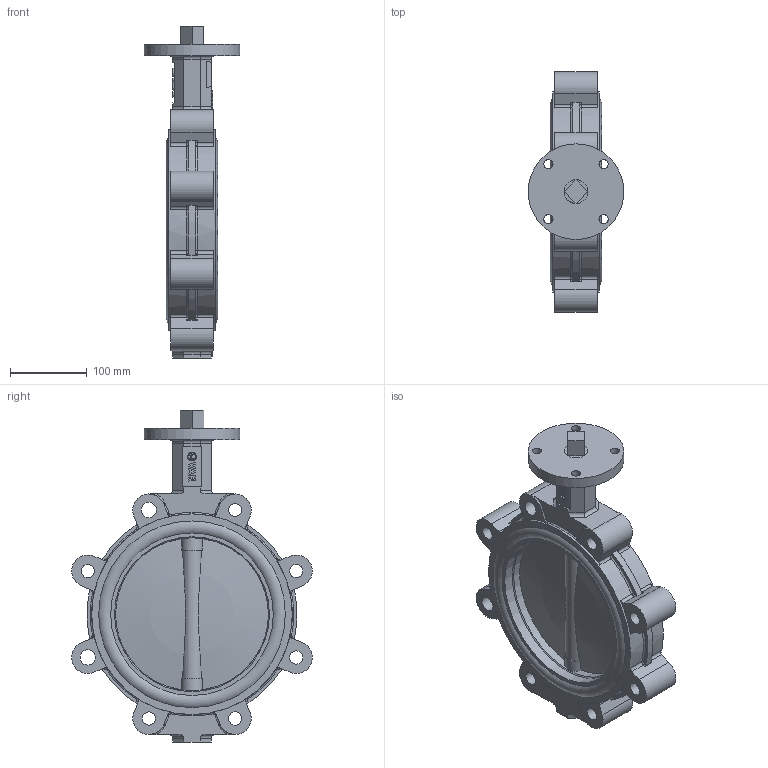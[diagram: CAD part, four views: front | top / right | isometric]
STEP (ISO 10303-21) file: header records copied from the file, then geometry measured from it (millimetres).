
FILE_DESCRIPTION(('STEP AP242'), '1');
FILE_NAME('Ïîâîðîòíûé çàòâîð ïîä ýëåêòðîïðèâîä', '', ('UNSPECIFIED'), ('UNSPECIFIED'), 'C3D Converter', 'C3D Toolkit', '');
FILE_SCHEMA(('AP242_MANAGED_MODEL_BASED_3D_ENGINEERING_MIM_LF { 1 0 10303 442 1 1 4 }'));
Length unit declared in the file: millimetre
Products named in the file (6): П
Assembly tree (6 placements, depth 2):
  (unnamed)
    (unnamed)
    П  x2
    (unnamed)
    (unnamed)
    (unnamed)
Bounding box: 125 x 314.5 x 434 mm (x, y, z)
Volume: 3011044.1 mm3; surface area: 538049 mm2
Topology: 6 solids, 6 shells, 570 faces, 1474 edges, 948 vertices
Faces by surface type: plane 223, cylinder 146, extrusion 135, torus 58, cone 4, sphere 4
Full cylindrical faces by diameter (mm): 11.421 x1, 12 x4, 17.294 x6, 20 x2, 22 x5, 24.2 x1, 28.975 x4, 31.113 x5, 125 x1, 200 x1, 202.5 x2, 212.5 x2, 228.25 x4, 244 x4, 262.333 x2
Entity records: 22384 total; most frequent: CARTESIAN_POINT 6904, ORIENTED_EDGE 2832, DIRECTION 2434, EDGE_CURVE 1416, VERTEX_POINT 943, VECTOR 830, AXIS2_PLACEMENT_3D 802, LINE 695
